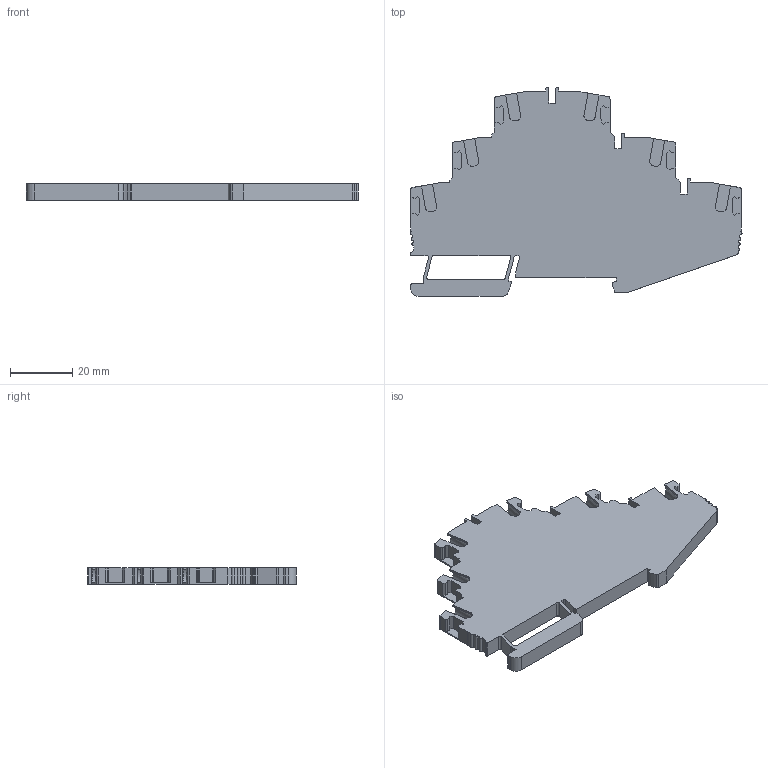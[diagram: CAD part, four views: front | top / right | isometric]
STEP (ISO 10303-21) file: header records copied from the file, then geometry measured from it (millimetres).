
FILE_DESCRIPTION(('Creo Elements/Direct Modeling STEP Export'),'2;1');
FILE_NAME('EFT.2.stp','2018-11-09T 9:15:03',(''),(''),'Creo Elements/Direct Modeling STEP processor for AP214 (Solid Model)','Creo Elements/Direct Modeling 20.1 10-Mar-2018 (C) Parametric Technology GmbH','');
FILE_SCHEMA(('AUTOMOTIVE_DESIGN { 1 0 10303 214 1 1 1 1 }'));
Length unit declared in the file: millimetre
Products named in the file (1): EFT.2
Bounding box: 106.56 x 66.9 x 5.2 mm (x, y, z)
Volume: 22468.3 mm3; surface area: 12775 mm2
Topology: 1 solids, 1 shells, 379 faces, 1091 edges, 728 vertices
Faces by surface type: plane 284, cylinder 95
Entity records: 12801 total; most frequent: ORIENTED_EDGE 2182, CARTESIAN_POINT 2175, DIRECTION 2009, EDGE_CURVE 1091, VECTOR 885, LINE 885, VERTEX_POINT 728, AXIS2_PLACEMENT_3D 562
